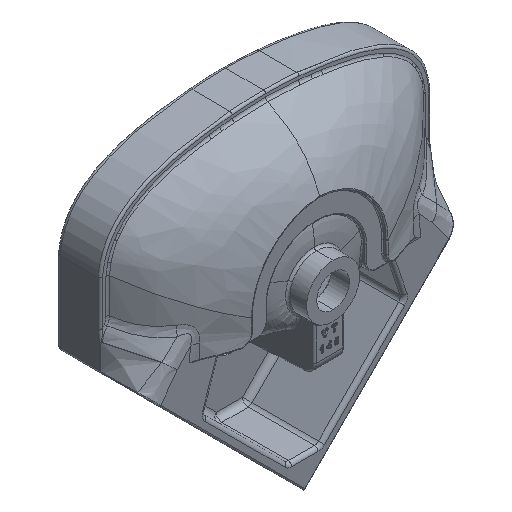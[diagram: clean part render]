
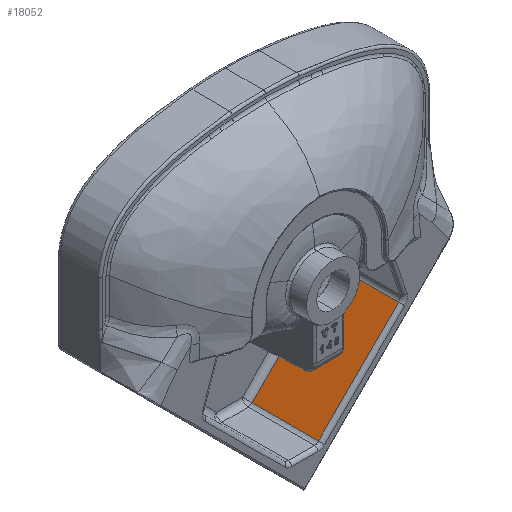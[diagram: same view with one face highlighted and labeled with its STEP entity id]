
A CAD part, isometric view. The second image highlights one B-rep face of the part: STEP entity #18052.
In plain terms, the highlighted planar face has unit normal (-0.707, 0, 0.707).
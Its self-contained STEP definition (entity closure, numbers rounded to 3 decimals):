
#156 = CARTESIAN_POINT ( 'NONE',  ( 23.63, -114., 44.843 ) ) ;
#4362 = LINE ( 'NONE', #156, #58757 ) ;
#4859 = ORIENTED_EDGE ( 'NONE', *, *, #55688, .T. ) ;
#5014 = DIRECTION ( 'NONE',  ( 0., 1., 0. ) ) ;
#6204 = ORIENTED_EDGE ( 'NONE', *, *, #10812, .T. ) ;
#10200 = FACE_OUTER_BOUND ( 'NONE', #58305, .T. ) ;
#10812 = EDGE_CURVE ( 'NONE', #38654, #22002, #17861, .T. ) ;
#16416 = VECTOR ( 'NONE', #53036, 1000. ) ;
#17567 = CARTESIAN_POINT ( 'NONE',  ( 134.001, -109., 155.214 ) ) ;
#17861 = LINE ( 'NONE', #54193, #40827 ) ;
#18052 = ADVANCED_FACE ( 'NONE', ( #10200 ), #37225, .F. ) ;
#21765 = DIRECTION ( 'NONE',  ( 0., -1., 0. ) ) ;
#22002 = VERTEX_POINT ( 'NONE', #25597 ) ;
#23825 = ORIENTED_EDGE ( 'NONE', *, *, #36381, .T. ) ;
#25597 = CARTESIAN_POINT ( 'NONE',  ( 23.63, -18., 44.843 ) ) ;
#31118 = AXIS2_PLACEMENT_3D ( 'NONE', #46820, #37809, #56123 ) ;
#33232 = CARTESIAN_POINT ( 'NONE',  ( 134.001, -10., 155.214 ) ) ;
#36381 = EDGE_CURVE ( 'NONE', #22002, #41375, #4362, .T. ) ;
#37225 = PLANE ( 'NONE',  #31118 ) ;
#37307 = ORIENTED_EDGE ( 'NONE', *, *, #47876, .T. ) ;
#37809 = DIRECTION ( 'NONE',  ( 0.707, 0., -0.707 ) ) ;
#38654 = VERTEX_POINT ( 'NONE', #45210 ) ;
#38921 = LINE ( 'NONE', #49127, #16416 ) ;
#40827 = VECTOR ( 'NONE', #49986, 1000. ) ;
#41375 = VERTEX_POINT ( 'NONE', #49422 ) ;
#45210 = CARTESIAN_POINT ( 'NONE',  ( 134.001, -18., 155.214 ) ) ;
#46820 = CARTESIAN_POINT ( 'NONE',  ( 0., -114., 21.213 ) ) ;
#47876 = EDGE_CURVE ( 'NONE', #41375, #56789, #38921, .T. ) ;
#49127 = CARTESIAN_POINT ( 'NONE',  ( 0., -109., 21.213 ) ) ;
#49422 = CARTESIAN_POINT ( 'NONE',  ( 23.63, -109., 44.843 ) ) ;
#49986 = DIRECTION ( 'NONE',  ( -0.707, 0., -0.707 ) ) ;
#53036 = DIRECTION ( 'NONE',  ( 0.707, 0., 0.707 ) ) ;
#54193 = CARTESIAN_POINT ( 'NONE',  ( 21.287, -18., 42.5 ) ) ;
#55688 = EDGE_CURVE ( 'NONE', #56789, #38654, #56038, .T. ) ;
#56038 = LINE ( 'NONE', #33232, #57819 ) ;
#56123 = DIRECTION ( 'NONE',  ( -0.707, 0., -0.707 ) ) ;
#56789 = VERTEX_POINT ( 'NONE', #17567 ) ;
#57819 = VECTOR ( 'NONE', #5014, 1000. ) ;
#58305 = EDGE_LOOP ( 'NONE', ( #23825, #37307, #4859, #6204 ) ) ;
#58757 = VECTOR ( 'NONE', #21765, 1000. ) ;
